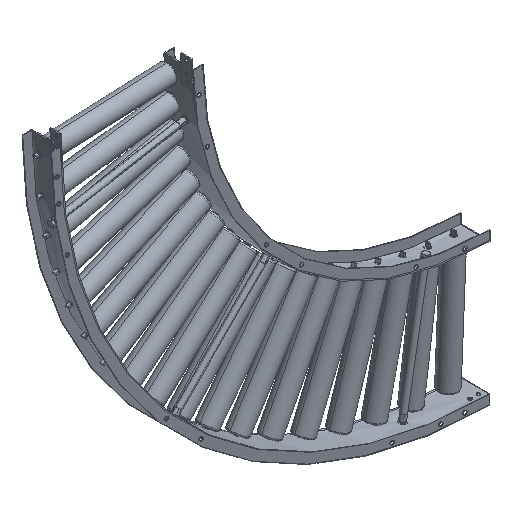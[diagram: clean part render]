
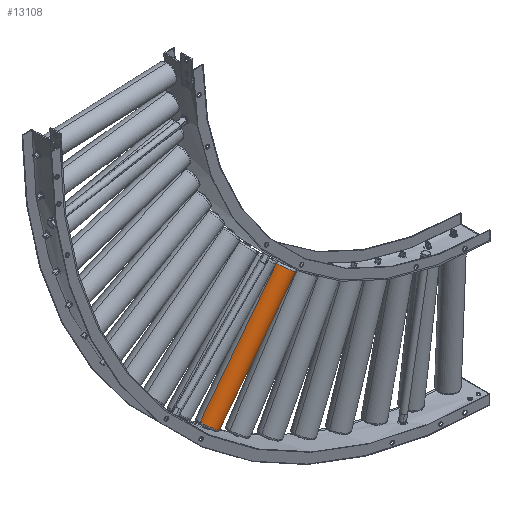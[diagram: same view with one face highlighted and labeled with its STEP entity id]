
A CAD part, isometric view. The second image highlights one B-rep face of the part: STEP entity #13108.
In plain terms, the highlighted cylindrical face has radius 28.6 mm (diameter 57.2 mm), a partial arc.
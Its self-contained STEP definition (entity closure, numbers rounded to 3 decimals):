
#333 = AXIS2_PLACEMENT_3D ( 'NONE', #27382, #24696, #12934 ) ;
#1095 = VERTEX_POINT ( 'NONE', #26275 ) ;
#1299 = VECTOR ( 'NONE', #36696, 1000. ) ;
#1390 = LINE ( 'NONE', #24923, #1299 ) ;
#2186 = CIRCLE ( 'NONE', #333, 28.6 ) ;
#2534 = VERTEX_POINT ( 'NONE', #36264 ) ;
#4594 = DIRECTION ( 'NONE',  ( -0.793, 0., 0.609 ) ) ;
#5291 = EDGE_CURVE ( 'NONE', #1095, #31449, #1390, .T. ) ;
#5810 = VECTOR ( 'NONE', #32543, 1000. ) ;
#7498 = DIRECTION ( 'NONE',  ( -0.609, 0., -0.793 ) ) ;
#7600 = DIRECTION ( 'NONE',  ( 0.793, 0., -0.609 ) ) ;
#12934 = DIRECTION ( 'NONE',  ( 0.793, 0., -0.609 ) ) ;
#13108 = ADVANCED_FACE ( 'NONE', ( #14232 ), #19452, .T. ) ;
#14232 = FACE_OUTER_BOUND ( 'NONE', #19307, .T. ) ;
#15139 = AXIS2_PLACEMENT_3D ( 'NONE', #24958, #34228, #7600 ) ;
#15785 = CIRCLE ( 'NONE', #15139, 28.6 ) ;
#17503 = EDGE_CURVE ( 'NONE', #36427, #31449, #2186, .T. ) ;
#17770 = ORIENTED_EDGE ( 'NONE', *, *, #5291, .F. ) ;
#19307 = EDGE_LOOP ( 'NONE', ( #17770, #32077, #34340, #19926 ) ) ;
#19452 = CYLINDRICAL_SURFACE ( 'NONE', #33234, 28.6 ) ;
#19926 = ORIENTED_EDGE ( 'NONE', *, *, #17503, .T. ) ;
#20764 = CARTESIAN_POINT ( 'NONE',  ( -63.088, 1.013, -250.574 ) ) ;
#24696 = DIRECTION ( 'NONE',  ( 0.609, 0., 0.793 ) ) ;
#24923 = CARTESIAN_POINT ( 'NONE',  ( -17.708, 1.013, -285.395 ) ) ;
#24958 = CARTESIAN_POINT ( 'NONE',  ( -43.442, 1.013, -271.952 ) ) ;
#26275 = CARTESIAN_POINT ( 'NONE',  ( -20.752, 1.013, -289.362 ) ) ;
#27382 = CARTESIAN_POINT ( 'NONE',  ( -274.771, 1.013, -573.426 ) ) ;
#28444 = EDGE_CURVE ( 'NONE', #2534, #36427, #33115, .T. ) ;
#30016 = CARTESIAN_POINT ( 'NONE',  ( -297.461, 1.013, -556.015 ) ) ;
#31449 = VERTEX_POINT ( 'NONE', #32322 ) ;
#31632 = EDGE_CURVE ( 'NONE', #1095, #2534, #15785, .T. ) ;
#32077 = ORIENTED_EDGE ( 'NONE', *, *, #31632, .T. ) ;
#32322 = CARTESIAN_POINT ( 'NONE',  ( -252.081, 1.013, -590.836 ) ) ;
#32543 = DIRECTION ( 'NONE',  ( -0.609, 0., -0.793 ) ) ;
#33115 = LINE ( 'NONE', #20764, #5810 ) ;
#33234 = AXIS2_PLACEMENT_3D ( 'NONE', #37760, #7498, #4594 ) ;
#34228 = DIRECTION ( 'NONE',  ( -0.609, 0., -0.793 ) ) ;
#34340 = ORIENTED_EDGE ( 'NONE', *, *, #28444, .T. ) ;
#36264 = CARTESIAN_POINT ( 'NONE',  ( -66.132, 1.013, -254.541 ) ) ;
#36427 = VERTEX_POINT ( 'NONE', #30016 ) ;
#36696 = DIRECTION ( 'NONE',  ( -0.609, 0., -0.793 ) ) ;
#37760 = CARTESIAN_POINT ( 'NONE',  ( -40.398, 1.013, -267.985 ) ) ;
